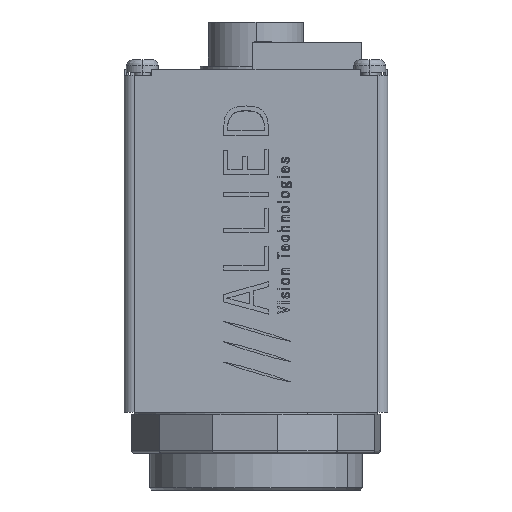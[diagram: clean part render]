
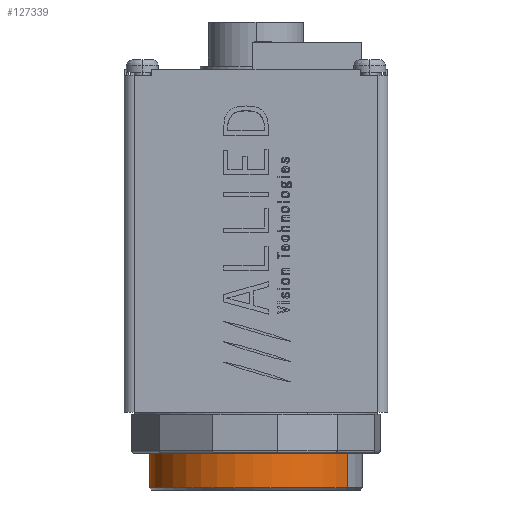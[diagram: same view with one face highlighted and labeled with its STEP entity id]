
A CAD part, left-side view. The second image highlights one B-rep face of the part: STEP entity #127339.
In plain terms, the highlighted cylindrical face has radius 13.335 mm (diameter 26.67 mm), a partial arc.
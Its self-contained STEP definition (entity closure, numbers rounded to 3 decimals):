
#643 = CYLINDRICAL_SURFACE ( 'NONE', #122310, 13.335 ) ;
#5426 = ORIENTED_EDGE ( 'NONE', *, *, #119272, .F. ) ;
#7442 = EDGE_LOOP ( 'NONE', ( #106181, #87170, #57441, #5426 ) ) ;
#18687 = CARTESIAN_POINT ( 'NONE',  ( -13.335, 0., 13.386 ) ) ;
#23110 = CARTESIAN_POINT ( 'NONE',  ( 13.335, 0., 7.214 ) ) ;
#23777 = CIRCLE ( 'NONE', #53474, 13.335 ) ;
#24218 = DIRECTION ( 'NONE',  ( 0., 0., -1. ) ) ;
#27219 = CIRCLE ( 'NONE', #116041, 13.335 ) ;
#33819 = VERTEX_POINT ( 'NONE', #23110 ) ;
#37200 = EDGE_CURVE ( 'NONE', #150610, #54441, #23777, .T. ) ;
#44722 = VERTEX_POINT ( 'NONE', #133679 ) ;
#48264 = CARTESIAN_POINT ( 'NONE',  ( 0., 0., 7.214 ) ) ;
#53474 = AXIS2_PLACEMENT_3D ( 'NONE', #105811, #24218, #119462 ) ;
#54441 = VERTEX_POINT ( 'NONE', #139323 ) ;
#57264 = DIRECTION ( 'NONE',  ( 0., 0., 1. ) ) ;
#57441 = ORIENTED_EDGE ( 'NONE', *, *, #37200, .T. ) ;
#61875 = DIRECTION ( 'NONE',  ( 1., 0., 0. ) ) ;
#66909 = EDGE_CURVE ( 'NONE', #44722, #150610, #139533, .T. ) ;
#74328 = CARTESIAN_POINT ( 'NONE',  ( 13.335, 0., 7.214 ) ) ;
#74977 = LINE ( 'NONE', #74328, #147330 ) ;
#87170 = ORIENTED_EDGE ( 'NONE', *, *, #66909, .T. ) ;
#88043 = DIRECTION ( 'NONE',  ( 0., 0., 1. ) ) ;
#97724 = CARTESIAN_POINT ( 'NONE',  ( 0., 0., 7.214 ) ) ;
#105811 = CARTESIAN_POINT ( 'NONE',  ( 0., 0., 13.386 ) ) ;
#106181 = ORIENTED_EDGE ( 'NONE', *, *, #130739, .T. ) ;
#111912 = DIRECTION ( 'NONE',  ( 1., 0., 0. ) ) ;
#116041 = AXIS2_PLACEMENT_3D ( 'NONE', #48264, #143405, #61875 ) ;
#119272 = EDGE_CURVE ( 'NONE', #33819, #54441, #74977, .T. ) ;
#119462 = DIRECTION ( 'NONE',  ( 1., 0., 0. ) ) ;
#122310 = AXIS2_PLACEMENT_3D ( 'NONE', #97724, #57264, #111912 ) ;
#127339 = ADVANCED_FACE ( 'NONE', ( #162689 ), #643, .T. ) ;
#130739 = EDGE_CURVE ( 'NONE', #33819, #44722, #27219, .T. ) ;
#133679 = CARTESIAN_POINT ( 'NONE',  ( -13.335, 0., 7.214 ) ) ;
#139323 = CARTESIAN_POINT ( 'NONE',  ( 13.335, 0., 13.386 ) ) ;
#139533 = LINE ( 'NONE', #153897, #171509 ) ;
#143405 = DIRECTION ( 'NONE',  ( 0., 0., 1. ) ) ;
#147330 = VECTOR ( 'NONE', #88043, 1000. ) ;
#150610 = VERTEX_POINT ( 'NONE', #18687 ) ;
#153897 = CARTESIAN_POINT ( 'NONE',  ( -13.335, 0., 7.214 ) ) ;
#162689 = FACE_OUTER_BOUND ( 'NONE', #7442, .T. ) ;
#167605 = DIRECTION ( 'NONE',  ( 0., 0., 1. ) ) ;
#171509 = VECTOR ( 'NONE', #167605, 1000. ) ;
